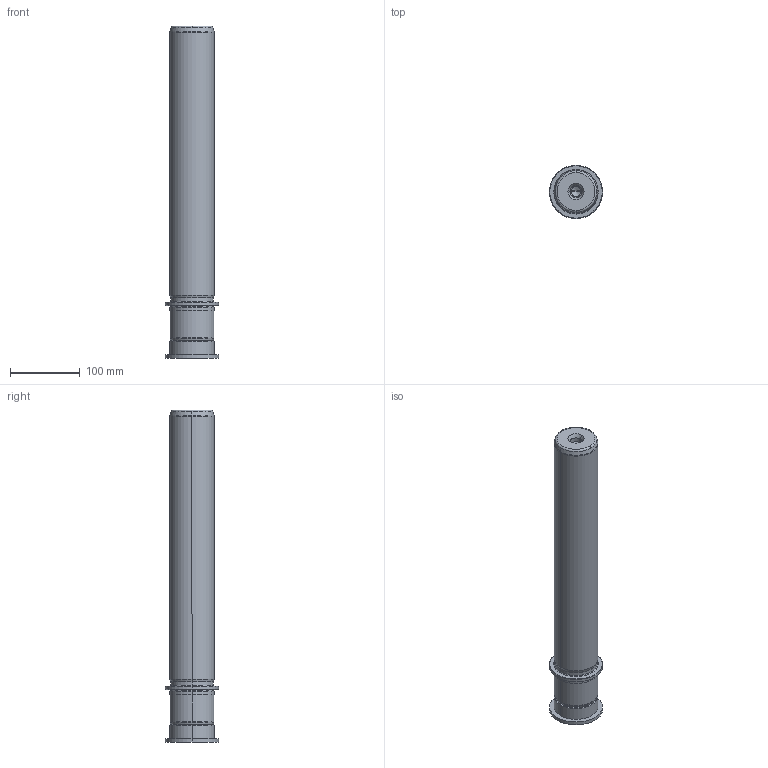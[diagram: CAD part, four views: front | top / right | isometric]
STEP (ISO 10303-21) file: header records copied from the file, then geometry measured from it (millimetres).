
FILE_DESCRIPTION((''),'2;1');
FILE_NAME('P22_063_400.stp','2009-02-06T15:53:37',(''),(''),'Mechanical Desktop 2009','Mechanical Desktop 2009',', , ');
FILE_SCHEMA(('CONFIG_CONTROL_DESIGN'));
Length unit declared in the file: millimetre
Products named in the file (2): Product; blmdl1
Assembly tree (1 placements, depth 2):
  Product
    blmdl1
Bounding box: 76 x 76 x 475 mm (x, y, z)
Volume: 1474422.5 mm3; surface area: 121328.7 mm2
Topology: 3 solids, 3 shells, 99 faces, 237 edges, 149 vertices
Faces by surface type: cylinder 32, cone 28, plane 19, torus 10, bspline 10
Entity records: 3419 total; most frequent: CARTESIAN_POINT 923, DIRECTION 570, ORIENTED_EDGE 466, AXIS2_PLACEMENT_3D 246, EDGE_CURVE 233, CIRCLE 155, VERTEX_POINT 149, EDGE_LOOP 110
